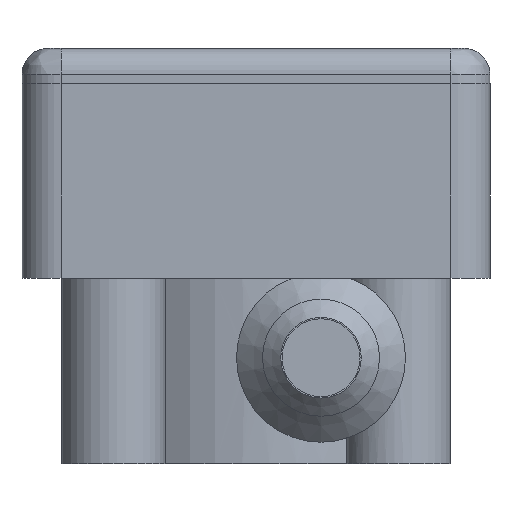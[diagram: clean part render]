
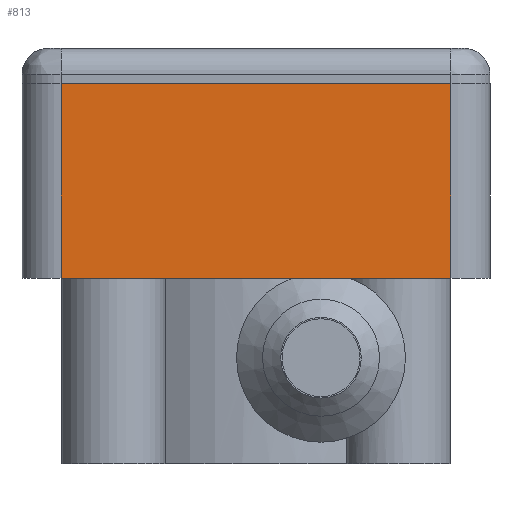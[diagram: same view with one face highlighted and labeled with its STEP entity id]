
A CAD part, left-side view. The second image highlights one B-rep face of the part: STEP entity #813.
In plain terms, the highlighted planar face has unit normal (-1, 0, 0).
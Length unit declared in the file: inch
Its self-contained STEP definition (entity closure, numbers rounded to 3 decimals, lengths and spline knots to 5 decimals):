
#30=PLANE('',#918);
#56=LINE('',#1478,#104);
#61=LINE('',#1494,#109);
#62=LINE('',#1501,#110);
#63=LINE('',#1503,#111);
#104=VECTOR('',#1092,0.59055);
#109=VECTOR('',#1109,1.1811);
#110=VECTOR('',#1120,0.59055);
#111=VECTOR('',#1123,1.1811);
#231=FACE_OUTER_BOUND('',#290,.T.);
#290=EDGE_LOOP('',(#628,#629,#630,#631));
#362=VERTEX_POINT('',#1474);
#363=VERTEX_POINT('',#1476);
#368=VERTEX_POINT('',#1492);
#369=VERTEX_POINT('',#1499);
#454=EDGE_CURVE('',#363,#362,#56,.T.);
#462=EDGE_CURVE('',#368,#363,#61,.T.);
#466=EDGE_CURVE('',#369,#368,#62,.T.);
#467=EDGE_CURVE('',#362,#369,#63,.T.);
#628=ORIENTED_EDGE('',*,*,#466,.F.);
#629=ORIENTED_EDGE('',*,*,#467,.F.);
#630=ORIENTED_EDGE('',*,*,#454,.F.);
#631=ORIENTED_EDGE('',*,*,#462,.F.);
#813=ADVANCED_FACE('',(#231),#30,.T.);
#918=AXIS2_PLACEMENT_3D('',#1502,#1121,#1122);
#1092=DIRECTION('',(0.,0.,1.));
#1109=DIRECTION('',(0.,1.,0.));
#1120=DIRECTION('',(0.,0.,-1.));
#1121=DIRECTION('center_axis',(-1.,0.,0.));
#1122=DIRECTION('ref_axis',(0.,-1.,0.));
#1123=DIRECTION('',(0.,-1.,0.));
#1474=CARTESIAN_POINT('',(-1.09078,0.54858,0.86319));
#1476=CARTESIAN_POINT('',(-1.09078,0.54858,0.27264));
#1478=CARTESIAN_POINT('',(-1.09078,0.54858,0.27264));
#1492=CARTESIAN_POINT('',(-1.09078,-0.63252,0.27264));
#1494=CARTESIAN_POINT('',(-1.09078,-0.75063,0.27264));
#1499=CARTESIAN_POINT('',(-1.09078,-0.63252,0.86319));
#1501=CARTESIAN_POINT('',(-1.09078,-0.63252,0.27264));
#1502=CARTESIAN_POINT('Origin',(-1.09078,0.66669,0.27264));
#1503=CARTESIAN_POINT('',(-1.09078,-0.75063,0.86319));
